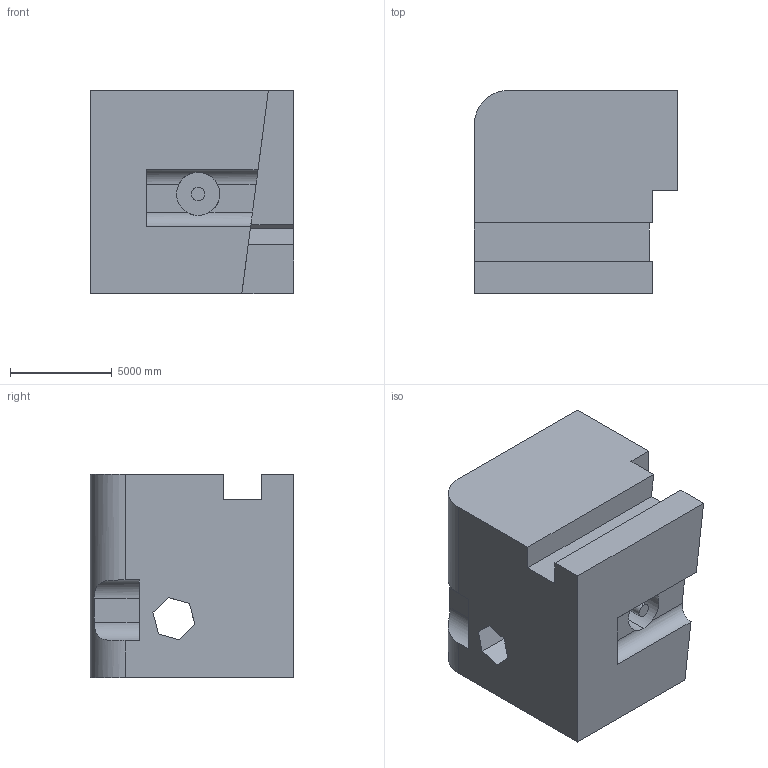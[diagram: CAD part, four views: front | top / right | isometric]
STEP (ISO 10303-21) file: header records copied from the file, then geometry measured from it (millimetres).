
FILE_DESCRIPTION (( 'STEP AP203' ), '1' );
FILE_NAME ('834.STEP', '2022-07-29T13:34:13', ( 'user' ), ( '' ), 'SwSTEP 2.0', 'SolidWorks 2021', '' );
FILE_SCHEMA (( 'CONFIG_CONTROL_DESIGN' ));
Length unit declared in the file: centimetre
Products named in the file (1): 834
Bounding box: 10000 x 10000 x 10000 mm (x, y, z)
Volume: 795235359308 mm3; surface area: 749104025.6 mm2
Topology: 1 solids, 1 shells, 44 faces, 126 edges, 84 vertices
Faces by surface type: plane 35, cylinder 9
Entity records: 1843 total; most frequent: CARTESIAN_POINT 619, ORIENTED_EDGE 252, DIRECTION 218, EDGE_CURVE 126, VECTOR 100, LINE 100, VERTEX_POINT 84, AXIS2_PLACEMENT_3D 59
